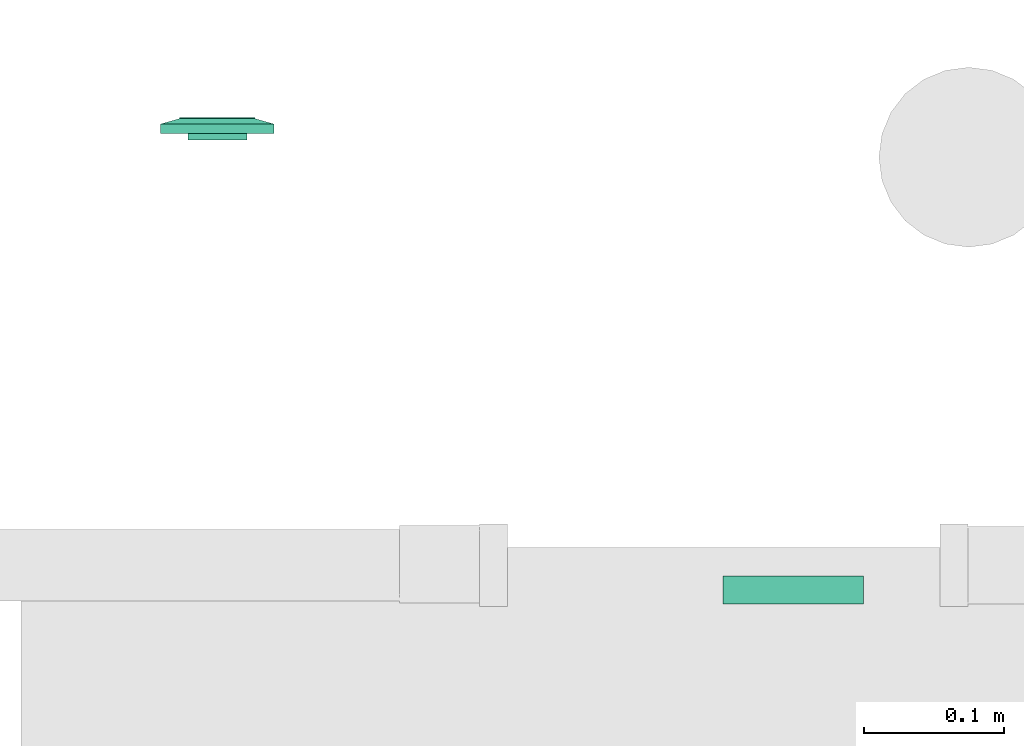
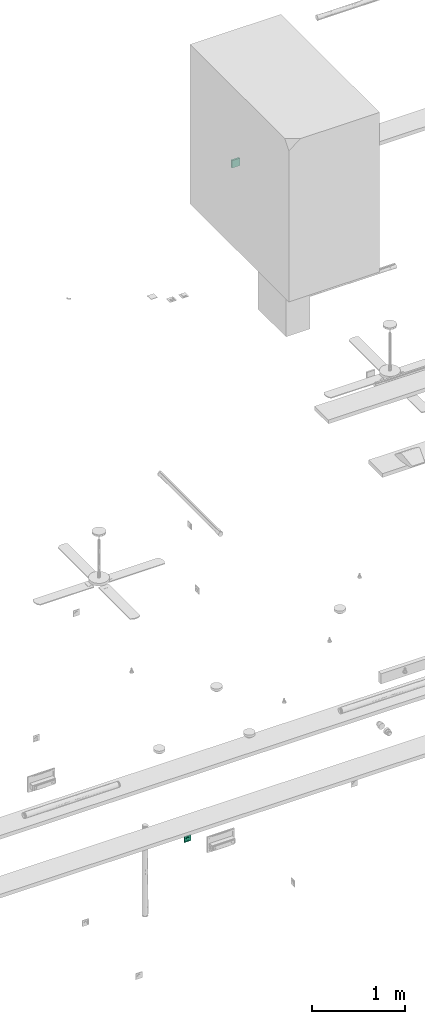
# One storey, part 76 of 153: 2 flow terminals.
"""IFC2X3 building model written with IfcOpenShell, lengths in metres."""

from ifc_helpers import new_model, entity, si_unit, converted_unit, derived_unit, direction, frame, origin, origin_2d_with_axis, place, context, subcontext, project, spatial, rectangle, extrude, face_set, surface_model, source, transform, mapped, type_object, type_shapes, element, save


model = new_model("IFC2X3")

# Units and contexts
model_context = context("Model", 3, precision=1e-05, world=origin(), true_north=direction((6.12303176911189e-17, 1.0)))
body_context = subcontext(model_context, "Body", "Model", "MODEL_VIEW")
ifc_project = project(units=[si_unit("LENGTHUNIT", "METRE"), si_unit("AREAUNIT", "SQUARE_METRE"), si_unit("VOLUMEUNIT", "CUBIC_METRE"), converted_unit("PLANEANGLEUNIT", "DEGREE", entity("IfcRatioMeasure", 0.0174532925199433), si_unit("PLANEANGLEUNIT", "RADIAN"), dimensions=[0, 0, 0, 0, 0, 0, 0]), si_unit("MASSUNIT", "GRAM", prefix="KILO"), derived_unit("MASSDENSITYUNIT", [(si_unit("MASSUNIT", "GRAM", prefix="KILO"), 1), (si_unit("LENGTHUNIT", "METRE"), -3)]), si_unit("TIMEUNIT", "SECOND"), si_unit("FREQUENCYUNIT", "HERTZ"), si_unit("THERMODYNAMICTEMPERATUREUNIT", "DEGREE_CELSIUS"), derived_unit("THERMALTRANSMITTANCEUNIT", [(si_unit("MASSUNIT", "GRAM", prefix="KILO"), 1), (si_unit("THERMODYNAMICTEMPERATUREUNIT", "KELVIN"), -1), (si_unit("TIMEUNIT", "SECOND"), -3)]), derived_unit("VOLUMETRICFLOWRATEUNIT", [(si_unit("LENGTHUNIT", "METRE"), 3), (si_unit("TIMEUNIT", "SECOND"), -1)]), si_unit("ELECTRICCURRENTUNIT", "AMPERE"), si_unit("ELECTRICVOLTAGEUNIT", "VOLT"), si_unit("POWERUNIT", "WATT"), si_unit("FORCEUNIT", "NEWTON"), si_unit("ILLUMINANCEUNIT", "LUX"), si_unit("LUMINOUSFLUXUNIT", "LUMEN"), si_unit("LUMINOUSINTENSITYUNIT", "CANDELA"), derived_unit("USERDEFINED", [(si_unit("MASSUNIT", "GRAM", prefix="KILO"), -1), (si_unit("LENGTHUNIT", "METRE"), -2), (si_unit("TIMEUNIT", "SECOND"), 3), (si_unit("LUMINOUSFLUXUNIT", "LUMEN"), 1)]), derived_unit("LINEARVELOCITYUNIT", [(si_unit("LENGTHUNIT", "METRE"), 1), (si_unit("TIMEUNIT", "SECOND"), -1)]), si_unit("PRESSUREUNIT", "PASCAL"), derived_unit("USERDEFINED", [(si_unit("LENGTHUNIT", "METRE"), -2), (si_unit("MASSUNIT", "GRAM", prefix="KILO"), 1), (si_unit("TIMEUNIT", "SECOND"), -2)])], contexts=[model_context])

# Site, building, storey
site_placement = place(None, origin())
site = spatial("IfcSite", under=ifc_project, at=site_placement, Name="Default", CompositionType="ELEMENT")
building_placement = place(site_placement, origin())
building = spatial("IfcBuilding", under=site, at=building_placement, CompositionType="ELEMENT")
storey_placement = place(building_placement, frame((0.0, 0.0, -4.62)))
storey = spatial("IfcBuildingStorey", under=building, at=storey_placement, Name="S02", CompositionType="ELEMENT", Elevation=-4.62)

# Flow terminals
light_fixture_type = type_object("IfcLightFixtureType", Name="PC IP21", PredefinedType="NOTDEFINED")
shared_shape_1 = source(origin(), body_context, "Body", "SurfaceModel", [
    surface_model("IfcFaceBasedSurfaceModel", [(-0.00225000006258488, 0.0127499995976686, 0.00949633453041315), (0.0, 0.0104999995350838, 0.00949633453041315), (0.0, 0.0115376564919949, 0.0101656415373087), (0.0, 0.0139623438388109, 0.0101656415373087), (0.0, 0.0144589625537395, 0.00984531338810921), (0.0, 0.0121178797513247, 0.0102778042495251), (0.0, 0.0133821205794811, 0.0102778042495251), (0.0, 0.0127499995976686, 0.010399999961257), (0.0, 0.0149999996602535, 0.00949633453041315), (0.00225000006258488, 0.0127499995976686, 0.00949633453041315), (0.0, 0.0110410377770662, 0.00984531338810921), (0.0, 0.0127499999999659, 0.00949633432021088), (0.00225000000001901, 0.0127499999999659, 0.00949633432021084), (0.00217333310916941, 0.0121676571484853, 0.00949633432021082), (0.00194855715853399, 0.0116249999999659, 0.00949633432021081), (0.00159099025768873, 0.0111590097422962, 0.00949633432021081), (0.001125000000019, 0.010801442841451, 0.00949633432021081), (0.00058234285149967, 0.0105766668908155, 0.00949633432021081), (0.0, 0.0104999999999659, 0.00949633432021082), (-0.000582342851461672, 0.0105766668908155, 0.00949633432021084), (-0.001124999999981, 0.010801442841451, 0.00949633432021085), (-0.00159099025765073, 0.0111590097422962, 0.00949633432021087), (-0.00194855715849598, 0.011624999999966, 0.00949633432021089), (-0.0021733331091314, 0.0121676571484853, 0.00949633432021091), (-0.00224999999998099, 0.012749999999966, 0.00949633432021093), (-0.00217333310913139, 0.0133323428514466, 0.00949633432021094), (-0.00194855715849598, 0.013874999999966, 0.00949633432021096), (-0.00159099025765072, 0.0143409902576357, 0.00949633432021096), (-0.00112499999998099, 0.0146985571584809, 0.00949633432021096), (-0.00058234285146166, 0.0149233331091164, 0.00949633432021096), (0.0, 0.0149999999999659, 0.00949633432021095), (0.000582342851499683, 0.0149233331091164, 0.00949633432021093), (0.00112500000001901, 0.0146985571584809, 0.00949633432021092), (0.00159099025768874, 0.0143409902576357, 0.00949633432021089), (0.001948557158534, 0.0138749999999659, 0.00949633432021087), (0.00217333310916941, 0.0133323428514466, 0.00949633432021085), (0.00225000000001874, 0.0127499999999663, -0.00360000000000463), (0.00217333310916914, 0.0121676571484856, -0.00360000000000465), (0.00194855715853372, 0.0116249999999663, -0.00360000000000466), (0.00159099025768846, 0.0111590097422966, -0.00360000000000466), (0.00112500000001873, 0.0108014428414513, -0.00360000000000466), (0.000582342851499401, 0.0105766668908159, -0.00360000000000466), (0.0, 0.0104999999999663, -0.00360000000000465), (-0.000582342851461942, 0.0105766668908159, -0.00360000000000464), (-0.00112499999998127, 0.0108014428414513, -0.00360000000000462), (-0.001590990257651, 0.0111590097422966, -0.0036000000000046), (-0.00194855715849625, 0.0116249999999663, -0.00360000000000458), (-0.00217333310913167, 0.0121676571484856, -0.00360000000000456), (-0.00224999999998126, 0.0127499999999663, -0.00360000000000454), (-0.00217333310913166, 0.013332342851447, -0.00360000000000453), (-0.00194855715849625, 0.0138749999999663, -0.00360000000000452), (-0.00159099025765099, 0.014340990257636, -0.00360000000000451), (-0.00112499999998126, 0.0146985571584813, -0.00360000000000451), (-0.000582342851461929, 0.0149233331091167, -0.00360000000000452), (0.0, 0.0149999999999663, -0.00360000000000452), (0.000582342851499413, 0.0149233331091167, -0.00360000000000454), (0.00112500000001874, 0.0146985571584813, -0.00360000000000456), (0.00159099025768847, 0.014340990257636, -0.00360000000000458), (0.00194855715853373, 0.0138749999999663, -0.0036000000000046), (0.00217333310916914, 0.013332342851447, -0.00360000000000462), (0.0270000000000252, 0.026999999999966, 0.0113999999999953), (-0.0269999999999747, 0.026999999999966, 0.0113999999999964), (-0.0269999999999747, -0.0270000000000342, 0.0113999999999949), (0.0270000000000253, -0.0270000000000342, 0.0113999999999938), (-0.0199999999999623, 0.0, 0.0113999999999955), (-0.0193185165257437, -0.00517638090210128, 0.0113999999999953), (-0.0173205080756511, -0.0100000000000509, 0.0113999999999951), (-0.0141421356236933, -0.0141421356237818, 0.011399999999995), (-0.00999999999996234, -0.0173205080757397, 0.0113999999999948), (-0.00517638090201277, -0.0193185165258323, 0.0113999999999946), (0.0, -0.0200000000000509, 0.0113999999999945), (0.00517638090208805, -0.0193185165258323, 0.0113999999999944), (0.0100000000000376, -0.0173205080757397, 0.0113999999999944), (0.0141421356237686, -0.0141421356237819, 0.0113999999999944), (0.0173205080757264, -0.010000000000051, 0.0113999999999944), (0.0193185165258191, -0.00517638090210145, 0.0113999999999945), (0.0200000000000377, 0.0, 0.0113999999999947), (0.0193185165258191, 0.00517638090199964, 0.0113999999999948), (0.0173205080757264, 0.0099999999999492, 0.011399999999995), (0.0141421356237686, 0.0141421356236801, 0.0113999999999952), (0.0100000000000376, 0.0173205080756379, 0.0113999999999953), (0.00517638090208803, 0.0193185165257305, 0.0113999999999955), (0.0, 0.0199999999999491, 0.0113999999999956), (-0.00517638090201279, 0.0193185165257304, 0.0113999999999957), (-0.00999999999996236, 0.0173205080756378, 0.0113999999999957), (-0.0141421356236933, 0.01414213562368, 0.0113999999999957), (-0.0173205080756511, 0.00999999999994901, 0.0113999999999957), (-0.0193185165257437, 0.00517638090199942, 0.0113999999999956), (0.0270000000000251, 0.0269999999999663, 0.00199999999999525), (0.0270000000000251, -0.0270000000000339, 0.00199999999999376), (-0.0269999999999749, -0.0270000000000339, 0.00199999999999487), (-0.0269999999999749, 0.0269999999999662, 0.00199999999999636), (0.0210000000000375, 0.0, 0.00199999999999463), (0.0202844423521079, -0.00543519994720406, 0.00199999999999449), (0.0181865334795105, -0.0105000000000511, 0.0019999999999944), (0.0148492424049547, -0.0148492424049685, 0.00199999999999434), (0.0105000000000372, -0.0181865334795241, 0.00199999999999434), (0.0054351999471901, -0.0202844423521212, 0.00199999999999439), (0.0, -0.0210000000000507, 0.00199999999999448), (-0.00543519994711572, -0.020284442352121, 0.00199999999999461), (-0.0104999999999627, -0.0181865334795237, 0.00199999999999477), (-0.0148492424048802, -0.014849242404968, 0.00199999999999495), (-0.0181865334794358, -0.0105000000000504, 0.00199999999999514), (-0.020284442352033, -0.00543519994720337, 0.00199999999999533), (-0.0209999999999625, 0.0, 0.00199999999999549), (-0.0202844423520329, 0.0054351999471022, 0.00199999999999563), (-0.0181865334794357, 0.0104999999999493, 0.00199999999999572), (-0.01484924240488, 0.0148492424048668, 0.00199999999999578), (-0.0104999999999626, 0.0181865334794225, 0.00199999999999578), (-0.00543519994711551, 0.0202844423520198, 0.00199999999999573), (0.0, 0.0209999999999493, 0.00199999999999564), (0.00543519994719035, 0.0202844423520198, 0.00199999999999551), (0.0105000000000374, 0.0181865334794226, 0.00199999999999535), (0.0148492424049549, 0.0148492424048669, 0.00199999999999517), (0.0181865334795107, 0.0104999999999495, 0.00199999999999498), (0.0202844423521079, 0.00543519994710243, 0.00199999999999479), (0.0200000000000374, 0.0, -0.00360000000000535), (0.0193185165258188, -0.00517638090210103, -0.00360000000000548), (0.0173205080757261, -0.0100000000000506, -0.00360000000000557), (0.0141421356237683, -0.0141421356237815, -0.00360000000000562), (0.0100000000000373, -0.0173205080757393, -0.00360000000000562), (0.00517638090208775, -0.0193185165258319, -0.00360000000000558), (0.0, -0.0200000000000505, -0.00360000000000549), (-0.00517638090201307, -0.0193185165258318, -0.00360000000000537), (-0.00999999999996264, -0.0173205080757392, -0.00360000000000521), (-0.0141421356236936, -0.0141421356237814, -0.00360000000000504), (-0.0173205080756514, -0.0100000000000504, -0.00360000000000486), (-0.019318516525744, -0.00517638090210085, -0.00360000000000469), (-0.0199999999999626, 0.0, -0.00360000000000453), (-0.0193185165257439, 0.00517638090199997, -0.0036000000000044), (-0.0173205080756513, 0.00999999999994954, -0.00360000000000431), (-0.0141421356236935, 0.0141421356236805, -0.00360000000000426), (-0.00999999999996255, 0.0173205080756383, -0.00360000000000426), (-0.00517638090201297, 0.0193185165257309, -0.0036000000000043), (0.0, 0.0199999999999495, -0.00360000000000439), (0.00517638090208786, 0.0193185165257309, -0.00360000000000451), (0.0100000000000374, 0.0173205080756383, -0.00360000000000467), (0.0141421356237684, 0.0141421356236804, -0.00360000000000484), (0.0173205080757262, 0.0099999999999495, -0.00360000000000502), (0.0193185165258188, 0.00517638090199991, -0.00360000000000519), (-0.0123499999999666, 0.0, -0.00360000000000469), (-0.0122562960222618, -0.000711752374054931, -0.00360000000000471), (-0.0119815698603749, -0.00137500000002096, -0.00360000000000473), (-0.0115445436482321, -0.00194454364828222, -0.00360000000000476), (-0.0109749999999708, -0.00238156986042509, -0.00360000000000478), (-0.0103117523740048, -0.00265629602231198, -0.0036000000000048), (-0.00959999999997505, -0.00275000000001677, -0.00360000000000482), (-0.0088882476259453, -0.00265629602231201, -0.00360000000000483), (-0.00822499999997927, -0.00238156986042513, -0.00360000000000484), (-0.00765545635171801, -0.00194454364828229, -0.00360000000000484), (-0.00721843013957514, -0.00137500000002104, -0.00360000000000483), (-0.00694370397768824, -0.000711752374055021, -0.00360000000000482), (-0.00684999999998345, 0.0, -0.0036000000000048), (-0.00694370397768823, 0.000711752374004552, -0.00360000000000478), (-0.00721843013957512, 0.00137499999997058, -0.00360000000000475), (-0.00765545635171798, 0.00194454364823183, -0.00360000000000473), (-0.00822499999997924, 0.00238156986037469, -0.0036000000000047), (-0.00888824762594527, 0.00265629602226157, -0.00360000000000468), (-0.00959999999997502, 0.00274999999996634, -0.00360000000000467), (-0.0103117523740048, 0.00265629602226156, -0.00360000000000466), (-0.0109749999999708, 0.00238156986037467, -0.00360000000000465), (-0.011544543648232, 0.00194454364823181, -0.00360000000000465), (-0.0119815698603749, 0.00137499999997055, -0.00360000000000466), (-0.0122562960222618, 0.000711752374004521, -0.00360000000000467), (0.00685000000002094, 0.0, -0.00360000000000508), (0.0069437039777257, -0.00071175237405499, -0.0036000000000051), (0.00721843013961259, -0.00137500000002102, -0.00360000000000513), (0.00765545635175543, -0.00194454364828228, -0.00360000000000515), (0.00822500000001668, -0.00238156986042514, -0.00360000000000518), (0.00888824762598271, -0.00265629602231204, -0.0036000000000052), (0.00960000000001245, -0.00275000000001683, -0.00360000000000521), (0.0103117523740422, -0.00265629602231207, -0.00360000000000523), (0.0109750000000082, -0.00238156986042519, -0.00360000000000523), (0.0115445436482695, -0.00194454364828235, -0.00360000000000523), (0.0119815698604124, -0.0013750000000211, -0.00360000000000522), (0.0122562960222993, -0.00071175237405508, -0.00360000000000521), (0.012350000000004, 0.0, -0.00360000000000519), (0.0122562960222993, 0.000711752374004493, -0.00360000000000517), (0.0119815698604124, 0.00137499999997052, -0.00360000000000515), (0.0115445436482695, 0.00194454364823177, -0.00360000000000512), (0.0109750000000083, 0.00238156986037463, -0.0036000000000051), (0.0103117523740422, 0.00265629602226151, -0.00360000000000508), (0.00960000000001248, 0.00274999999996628, -0.00360000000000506), (0.00888824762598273, 0.0026562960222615, -0.00360000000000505), (0.0082250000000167, 0.00238156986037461, -0.00360000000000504), (0.00765545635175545, 0.00194454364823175, -0.00360000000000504), (0.0072184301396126, 0.00137499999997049, -0.00360000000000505), (0.00694370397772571, 0.000711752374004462, -0.00360000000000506), (0.0210000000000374, 0.0, -0.00460000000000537), (0.0202844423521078, -0.00543519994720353, -0.00460000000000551), (0.0181865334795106, -0.0105000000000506, -0.0046000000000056), (0.0148492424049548, -0.0148492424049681, -0.00460000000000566), (0.0105000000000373, -0.0181865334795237, -0.00460000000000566), (0.00543519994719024, -0.0202844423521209, -0.00460000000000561), (0.0, -0.0210000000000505, -0.00460000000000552), (-0.00543519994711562, -0.0202844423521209, -0.00460000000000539), (-0.0104999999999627, -0.0181865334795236, -0.00460000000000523), (-0.0148492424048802, -0.0148492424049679, -0.00460000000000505), (-0.0181865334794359, -0.0105000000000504, -0.00460000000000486), (-0.0202844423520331, -0.00543519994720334, -0.00460000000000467), (-0.0209999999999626, 0.0, -0.00460000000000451), (-0.020284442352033, 0.00543519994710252, -0.00460000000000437), (-0.0181865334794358, 0.0104999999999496, -0.00460000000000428), (-0.0148492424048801, 0.0148492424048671, -0.00460000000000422), (-0.0104999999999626, 0.0181865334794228, -0.00460000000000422), (-0.00543519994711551, 0.02028444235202, -0.00460000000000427), (0.0, 0.0209999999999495, -0.00460000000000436), (0.00543519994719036, 0.02028444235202, -0.00460000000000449), (0.0105000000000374, 0.0181865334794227, -0.00460000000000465), (0.0148492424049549, 0.014849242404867, -0.00460000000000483), (0.0181865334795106, 0.0104999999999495, -0.00460000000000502), (0.0202844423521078, 0.00543519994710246, -0.00460000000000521), (-0.00684999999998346, 0.0, -0.0046000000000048), (-0.00694370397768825, 0.000711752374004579, -0.00460000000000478), (-0.00721843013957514, 0.00137499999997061, -0.00460000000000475), (-0.007655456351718, 0.00194454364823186, -0.00460000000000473), (-0.00822499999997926, 0.00238156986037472, -0.0046000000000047), (-0.00888824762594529, 0.0026562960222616, -0.00460000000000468), (-0.00959999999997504, 0.00274999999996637, -0.00460000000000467), (-0.0103117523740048, 0.00265629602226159, -0.00460000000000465), (-0.0109749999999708, 0.0023815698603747, -0.00460000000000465), (-0.0115445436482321, 0.00194454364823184, -0.00460000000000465), (-0.0119815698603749, 0.00137499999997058, -0.00460000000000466), (-0.0122562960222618, 0.000711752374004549, -0.00460000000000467), (-0.0123499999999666, 0.0, -0.00460000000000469), (-0.0122562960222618, -0.000711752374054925, -0.00460000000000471), (-0.0119815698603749, -0.00137500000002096, -0.00460000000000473), (-0.0115445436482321, -0.00194454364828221, -0.00460000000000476), (-0.0109749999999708, -0.00238156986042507, -0.00460000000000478), (-0.0103117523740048, -0.00265629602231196, -0.0046000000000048), (-0.00959999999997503, -0.00275000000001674, -0.00460000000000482), (-0.00888824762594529, -0.00265629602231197, -0.00460000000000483), (-0.00822499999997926, -0.00238156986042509, -0.00460000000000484), (-0.007655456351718, -0.00194454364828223, -0.00460000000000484), (-0.00721843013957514, -0.00137500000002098, -0.00460000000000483), (-0.00694370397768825, -0.000711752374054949, -0.00460000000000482), (0.012350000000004, 0.0, -0.00460000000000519), (0.0122562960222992, 0.000711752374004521, -0.00460000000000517), (0.0119815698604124, 0.00137499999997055, -0.00460000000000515), (0.0115445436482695, 0.0019445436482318, -0.00460000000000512), (0.0109750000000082, 0.00238156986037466, -0.0046000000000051), (0.0103117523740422, 0.00265629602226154, -0.00460000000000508), (0.00960000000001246, 0.00274999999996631, -0.00460000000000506), (0.00888824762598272, 0.00265629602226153, -0.00460000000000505), (0.00822500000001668, 0.00238156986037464, -0.00460000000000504), (0.00765545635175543, 0.00194454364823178, -0.00460000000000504), (0.00721843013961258, 0.00137499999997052, -0.00460000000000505), (0.00694370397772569, 0.00071175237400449, -0.00460000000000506), (0.00685000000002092, 0.0, -0.00460000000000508), (0.00694370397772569, -0.000711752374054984, -0.0046000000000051), (0.00721843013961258, -0.00137500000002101, -0.00460000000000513), (0.00765545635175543, -0.00194454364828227, -0.00460000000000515), (0.00822500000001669, -0.00238156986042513, -0.00460000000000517), (0.00888824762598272, -0.00265629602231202, -0.0046000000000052), (0.00960000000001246, -0.0027500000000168, -0.00460000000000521), (0.0103117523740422, -0.00265629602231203, -0.00460000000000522), (0.0109750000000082, -0.00238156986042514, -0.00460000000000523), (0.0115445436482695, -0.00194454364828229, -0.00460000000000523), (0.0119815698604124, -0.00137500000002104, -0.00460000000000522), (0.0122562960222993, -0.000711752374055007, -0.00460000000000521), (0.040350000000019, 0.0403499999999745, 0.00659999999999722), (0.040350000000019, -0.0403500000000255, 0.00659999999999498), (-0.0403499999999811, -0.0403500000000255, 0.00659999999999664), (-0.0403499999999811, 0.0403499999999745, 0.00659999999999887), (0.027000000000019, 0.0269999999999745, 0.00659999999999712), (-0.0269999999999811, 0.0269999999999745, 0.00659999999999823), (-0.026999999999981, -0.0270000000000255, 0.00659999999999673), (0.027000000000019, -0.0270000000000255, 0.00659999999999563), (0.027000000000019, 0.0269999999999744, 0.0103999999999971), (-0.026999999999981, 0.0269999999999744, 0.0103999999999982), (-0.026999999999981, -0.0270000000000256, 0.0103999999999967), (0.027000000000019, -0.0270000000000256, 0.0103999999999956), (0.040350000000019, 0.0403499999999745, 0.00659999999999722), (0.040350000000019, -0.0403500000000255, 0.00659999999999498), (-0.0403499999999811, -0.0403500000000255, 0.00659999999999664), (-0.0403499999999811, 0.0403499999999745, 0.00659999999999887), (-0.0269999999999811, 0.0269999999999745, 0.00659999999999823), (-0.0269999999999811, -0.0270000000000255, 0.00659999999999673), (0.0270000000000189, -0.0270000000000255, 0.00659999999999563), (0.0270000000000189, 0.0269999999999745, 0.00659999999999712), (0.0403500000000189, 0.0403499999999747, 0.0), (0.0403500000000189, -0.0403500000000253, 0.0), (-0.0403499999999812, -0.0403500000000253, 0.0), (-0.0403499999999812, 0.0403499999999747, 0.0), (0.0270000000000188, 0.0269999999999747, 0.0), (-0.0269999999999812, 0.0269999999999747, 0.0), (-0.0269999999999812, -0.0270000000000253, 0.0), (0.0270000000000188, -0.0270000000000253, 0.0)], [face_set([[[0, 1, 2]], [[3, 4, 2, 5]], [[6, 3, 5, 7]], [[2, 4, 0]], [[4, 8, 0]], [[3, 9, 8]], [[1, 9, 10]], [[2, 3, 6, 7]], [[3, 10, 9]], [[2, 10, 3]], [[11, 1, 0, 8]], [[11, 8, 9, 1]]]), face_set([[[12, 13, 14, 15, 16, 17, 18, 19, 20, 21, 22, 23, 24, 25, 26, 27, 28, 29, 30, 31, 32, 33, 34, 35]], [[36, 37, 38, 39, 40, 41, 42, 43, 44, 45, 46, 47, 48, 49, 50, 51, 52, 53, 54, 55, 56, 57, 58, 59]], [[48, 47, 23, 24]], [[47, 46, 22, 23]], [[45, 44, 20, 21]], [[46, 45, 21, 22]], [[44, 43, 19, 20]], [[18, 19, 43, 42]], [[42, 41, 17, 18]], [[41, 40, 16, 17]], [[39, 38, 14, 15]], [[40, 39, 15, 16]], [[38, 37, 13, 14]], [[12, 13, 37, 36]], [[36, 59, 35, 12]], [[59, 58, 34, 35]], [[57, 56, 32, 33]], [[58, 57, 33, 34]], [[56, 55, 31, 32]], [[30, 31, 55, 54]], [[54, 53, 29, 30]], [[53, 52, 28, 29]], [[51, 50, 26, 27]], [[52, 51, 27, 28]], [[50, 49, 25, 26]], [[24, 25, 49, 48]]]), face_set([[[60, 61, 62, 63], [64, 65, 66, 67, 68, 69, 70, 71, 72, 73, 74, 75, 76, 77, 78, 79, 80, 81, 82, 83, 84, 85, 86, 87]], [[88, 89, 90, 91], [92, 93, 94, 95, 96, 97, 98, 99, 100, 101, 102, 103, 104, 105, 106, 107, 108, 109, 110, 111, 112, 113, 114, 115]], [[61, 60, 88, 91]], [[62, 61, 91, 90]], [[63, 62, 90, 89]], [[60, 63, 89, 88]], [[116, 117, 118, 119, 120, 121, 122, 123, 124, 125, 126, 127, 128, 129, 130, 131, 132, 133, 134, 135, 136, 137, 138, 139], [140, 141, 142, 143, 144, 145, 146, 147, 148, 149, 150, 151, 152, 153, 154, 155, 156, 157, 158, 159, 160, 161, 162, 163], [164, 165, 166, 167, 168, 169, 170, 171, 172, 173, 174, 175, 176, 177, 178, 179, 180, 181, 182, 183, 184, 185, 186, 187]], [[64, 128, 127, 65]], [[65, 127, 126, 66]], [[67, 125, 124, 68]], [[66, 126, 125, 67]], [[68, 124, 123, 69]], [[122, 70, 69, 123]], [[70, 122, 121, 71]], [[71, 121, 120, 72]], [[73, 119, 118, 74]], [[72, 120, 119, 73]], [[74, 118, 117, 75]], [[116, 76, 75, 117]], [[76, 116, 139, 77]], [[77, 139, 138, 78]], [[79, 137, 136, 80]], [[78, 138, 137, 79]], [[80, 136, 135, 81]], [[134, 82, 81, 135]], [[82, 134, 133, 83]], [[83, 133, 132, 84]], [[84, 132, 131, 85]], [[85, 131, 130, 86]], [[130, 129, 87, 86]], [[64, 87, 129, 128]], [[188, 189, 190, 191, 192, 193, 194, 195, 196, 197, 198, 199, 200, 201, 202, 203, 204, 205, 206, 207, 208, 209, 210, 211], [212, 213, 214, 215, 216, 217, 218, 219, 220, 221, 222, 223, 224, 225, 226, 227, 228, 229, 230, 231, 232, 233, 234, 235], [236, 237, 238, 239, 240, 241, 242, 243, 244, 245, 246, 247, 248, 249, 250, 251, 252, 253, 254, 255, 256, 257, 258, 259]], [[200, 199, 103, 104]], [[199, 198, 102, 103]], [[197, 196, 100, 101]], [[198, 197, 101, 102]], [[196, 195, 99, 100]], [[98, 99, 195, 194]], [[194, 193, 97, 98]], [[193, 192, 96, 97]], [[191, 190, 94, 95]], [[192, 191, 95, 96]], [[190, 189, 93, 94]], [[92, 93, 189, 188]], [[188, 211, 115, 92]], [[211, 210, 114, 115]], [[209, 208, 112, 113]], [[210, 209, 113, 114]], [[208, 207, 111, 112]], [[110, 111, 207, 206]], [[206, 205, 109, 110]], [[205, 204, 108, 109]], [[203, 202, 106, 107]], [[204, 203, 107, 108]], [[202, 201, 105, 106]], [[104, 105, 201, 200]], [[141, 225, 226, 142]], [[140, 224, 225, 141]], [[144, 228, 229, 145]], [[143, 227, 228, 144]], [[142, 226, 227, 143]], [[230, 146, 145, 229]], [[149, 233, 232, 148]], [[148, 232, 231, 147]], [[152, 212, 235, 151]], [[151, 235, 234, 150]], [[150, 234, 233, 149]], [[146, 230, 231, 147]], [[154, 214, 213, 153]], [[153, 213, 212, 152]], [[157, 217, 216, 156]], [[156, 216, 215, 155]], [[155, 215, 214, 154]], [[218, 158, 157, 217]], [[160, 220, 221, 161]], [[159, 219, 220, 160]], [[163, 223, 224, 140]], [[162, 222, 223, 163]], [[161, 221, 222, 162]], [[158, 218, 219, 159]], [[166, 250, 249, 165]], [[165, 249, 248, 164]], [[169, 253, 252, 168]], [[168, 252, 251, 167]], [[167, 251, 250, 166]], [[254, 170, 169, 253]], [[172, 256, 257, 173]], [[171, 255, 256, 172]], [[175, 259, 236, 176]], [[174, 258, 259, 175]], [[173, 257, 258, 174]], [[170, 254, 255, 171]], [[177, 237, 238, 178]], [[176, 236, 237, 177]], [[180, 240, 241, 181]], [[179, 239, 240, 180]], [[178, 238, 239, 179]], [[242, 182, 181, 241]], [[185, 245, 244, 184]], [[184, 244, 243, 183]], [[164, 248, 247, 187]], [[187, 247, 246, 186]], [[186, 246, 245, 185]], [[182, 242, 243, 183]]]), face_set([[[260, 261, 262, 263], [264, 265, 266, 267]], [[260, 268, 269, 263]], [[263, 269, 270, 262]], [[262, 270, 271, 261]], [[261, 271, 268, 260]], [[264, 265, 269, 268]], [[265, 266, 270, 269]], [[266, 267, 271, 270]], [[268, 271, 267, 264]]]), face_set([[[272, 273, 274, 275], [276, 277, 278, 279]], [[280, 281, 282, 283], [284, 285, 286, 287]], [[275, 272, 280, 283]], [[274, 275, 283, 282]], [[273, 274, 282, 281]], [[272, 273, 281, 280]], [[284, 285, 276, 279]], [[285, 286, 277, 276]], [[286, 287, 278, 277]], [[279, 278, 287, 284]]])]),
])
type_shapes(light_fixture_type, [shared_shape_1])
flow_terminal_1_placement = place(building_placement, frame((47.017743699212, -190.563069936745, -4.31999999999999), z_axis=(0.0, 1.0, 0.0), x_axis=(-1.0, 0.0, 0.0)))
element("IfcFlowTerminal", 1, at=flow_terminal_1_placement, inside=storey, type_object=light_fixture_type, Name="INT Prise de courant:PC IP21", ObjectType="INT Prise de courant:PC IP21", context=body_context, shape_type="MappedRepresentation", body=[
    mapped(shared_shape_1, transform((0.0, 0.0, 0.0), scale=1.0)),
])
electric_appliance_type = type_object("IfcElectricApplianceType", Name="Baie de brassage", PredefinedType="NOTDEFINED")
shared_shape_2 = source(origin(), body_context, "Body", "SweptSolid", [
    extrude(rectangle(XDim=0.1, YDim=0.1, at=origin_2d_with_axis()), frame((0.0, 0.0, 0.0), z_axis=(0.0, 0.0, 1.0), x_axis=(0.0, 1.0, 0.0)), (0.0, 0.0, 1.0), 0.02),
])
type_shapes(electric_appliance_type, [shared_shape_2])
flow_terminal_2_placement = place(building_placement, frame((47.4277436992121, -190.87806962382, 4.63686448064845), z_axis=(0.0, -1.0, 0.0), x_axis=(1.0, 0.0, 0.0)))
element("IfcFlowTerminal", 2, at=flow_terminal_2_placement, inside=storey, type_object=electric_appliance_type, Name="INT_Baie de Brassage:Baie de brassage", ObjectType="INT_Baie de Brassage:Baie de brassage", context=body_context, shape_type="MappedRepresentation", body=[
    mapped(shared_shape_2, transform((0.0, 0.0, 0.0), scale=1.0)),
])

save(model, "model.ifc")
